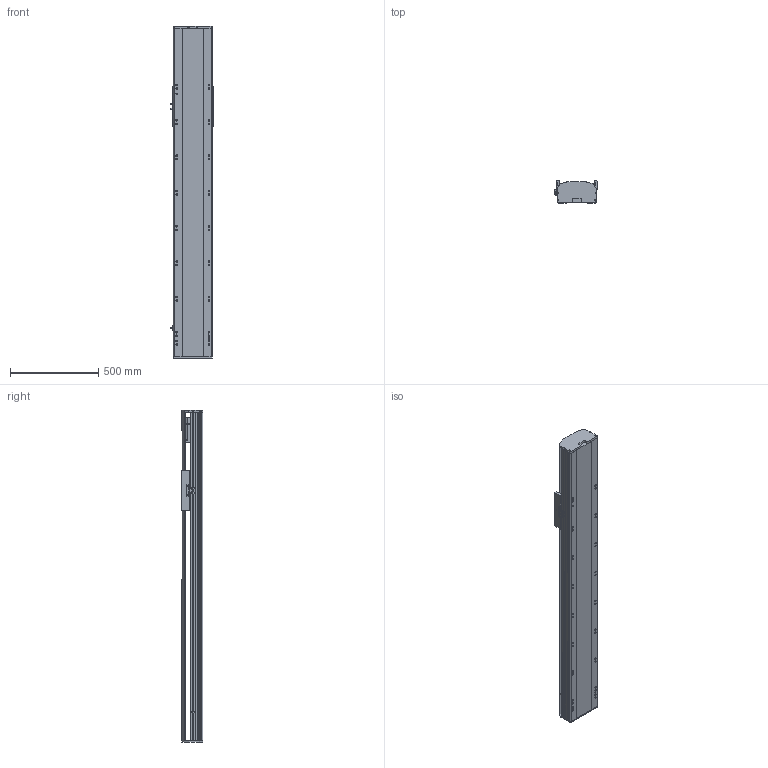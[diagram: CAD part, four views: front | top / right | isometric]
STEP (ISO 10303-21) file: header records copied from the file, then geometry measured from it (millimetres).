
FILE_DESCRIPTION (( 'STEP AP214' ), '1' );
FILE_NAME ('RTH22-XX-1250-B-M75B-C4.STEP', '2025-10-24T10:13:57', ( 'Microsoft' ), ( 'Microsoft' ), 'SwSTEP 2.0', 'SolidWorks 2018', '' );
FILE_SCHEMA (( 'AUTOMOTIVE_DESIGN' ));
Length unit declared in the file: millimetre
Products named in the file (9): N_RTH22-GY-013外置感应片^RTH22-XX-XX-B-M75B-C4; RTH22-XX-1250-B-M75B-C4; N_RTH22-E-004-SFS25賑釱^RTH22-XX-XX-B-M75B-C4; N_RTH22-B-011B菁釱^RTH22-XX-XX-B-M75B-C4; N_RTH22-B-007B奻裔^RTH22-XX-XX-B-M75B-C4; N_OMRON EE-SX672 传感器^RTH22-XX-XX-B-M75B-C4; N_750W萇儂^RTH22-XX-XX-B-M75B-C4; N_RTH22-B008萇儂啣^RTH22-XX-XX-B-M75B-C4; N_RTH22-GY-001耜裔^RTH22-XX-XX-B-M75B-C4
Assembly tree (10 placements, depth 2):
  RTH22-XX-1250-B-M75B-C4
    N_RTH22-B-011B菁釱^RTH22-XX-XX-B-M75B-C4
    N_RTH22-GY-001耜裔^RTH22-XX-XX-B-M75B-C4
    N_750W萇儂^RTH22-XX-XX-B-M75B-C4
    N_RTH22-B008萇儂啣^RTH22-XX-XX-B-M75B-C4
    N_RTH22-B-007B奻裔^RTH22-XX-XX-B-M75B-C4
    N_OMRON EE-SX672 传感器^RTH22-XX-XX-B-M75B-C4  x3
    N_RTH22-GY-013外置感应片^RTH22-XX-XX-B-M75B-C4
    N_RTH22-E-004-SFS25賑釱^RTH22-XX-XX-B-M75B-C4
Bounding box: 238.5 x 122 x 1880 mm (x, y, z)
Volume: 24868669.7 mm3; surface area: 2549585.5 mm2
Topology: 10 solids, 10 shells, 1569 faces, 4300 edges, 2773 vertices
Faces by surface type: plane 758, cylinder 466, bspline 279, cone 66
Entity records: 39407 total; most frequent: CARTESIAN_POINT 12141, ORIENTED_EDGE 5560, DIRECTION 5258, EDGE_CURVE 2780, VERTEX_POINT 1809, AXIS2_PLACEMENT_3D 1786, VECTOR 1686, LINE 1686
